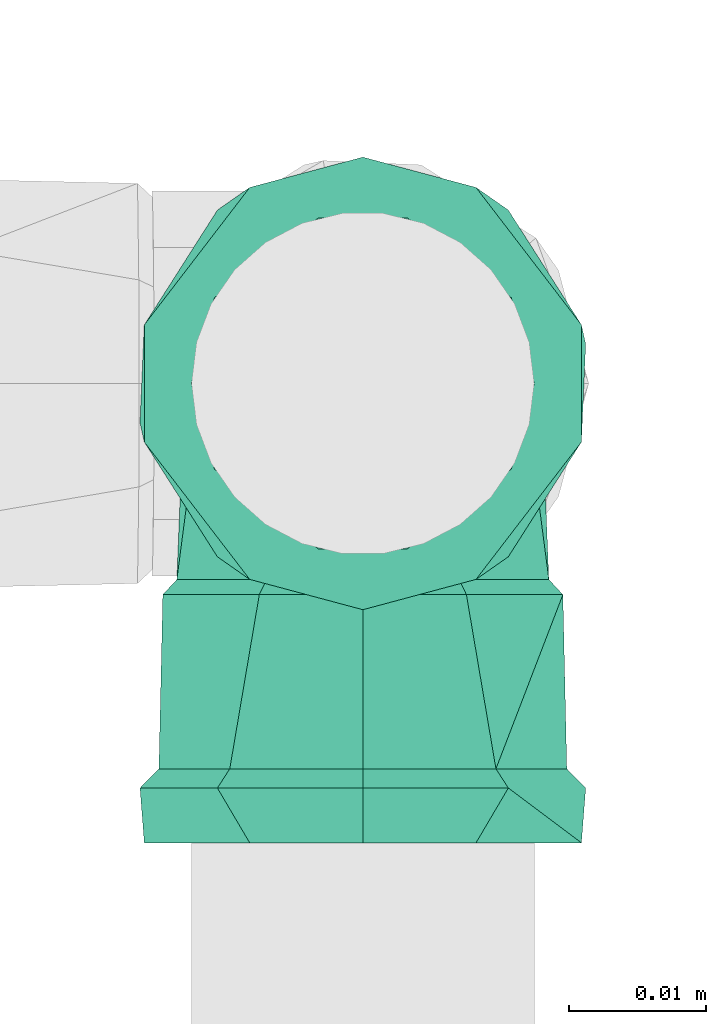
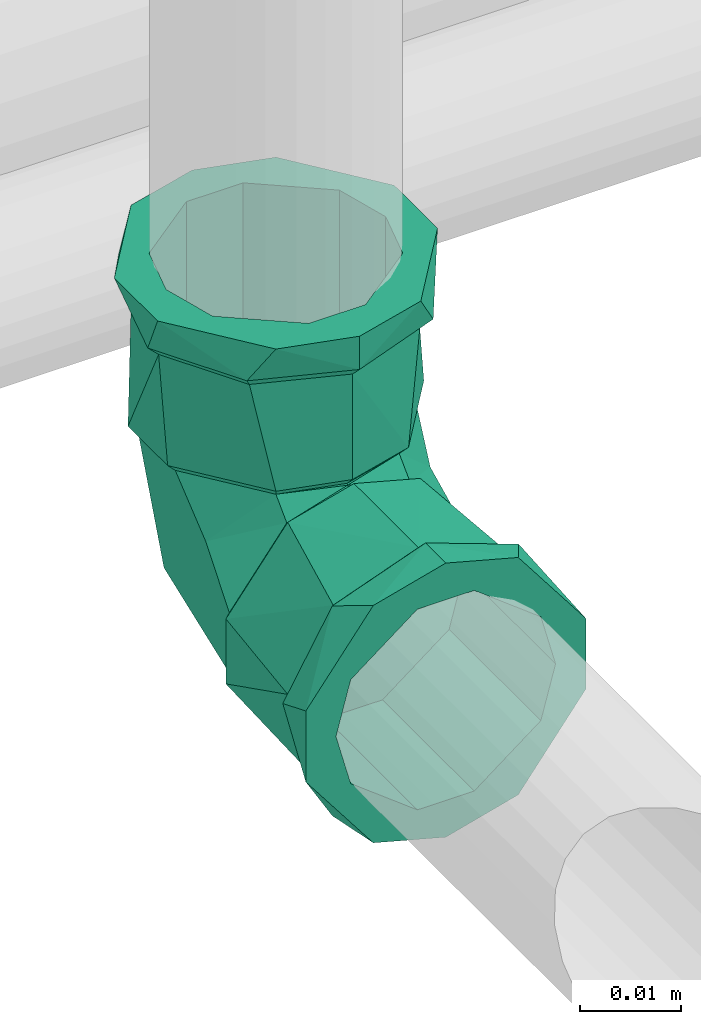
# One storey, part 311 of 589: 1 flow fitting.
"""IFC2X3 building model written with IfcOpenShell, lengths in millimetres."""

from ifc_helpers import new_model, entity, si_unit, converted_unit, derived_unit, direction, frame, origin, place, context, subcontext, project, spatial, faceted_brep, source, transform, mapped, material, type_object, type_shapes, element, save


model = new_model("IFC2X3")

# Units and contexts
model_context = context("Model", 3, precision=0.01, world=origin(), true_north=direction((6.123031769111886e-17, 1.0)))
body_context = subcontext(model_context, "Body", "Model", "MODEL_VIEW")
ifc_project = project(units=[si_unit("LENGTHUNIT", "METRE", prefix="MILLI"), si_unit("AREAUNIT", "SQUARE_METRE"), si_unit("VOLUMEUNIT", "CUBIC_METRE"), converted_unit("PLANEANGLEUNIT", "DEGREE", entity("IfcRatioMeasure", 0.017453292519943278), si_unit("PLANEANGLEUNIT", "RADIAN"), dimensions=[0, 0, 0, 0, 0, 0, 0]), si_unit("MASSUNIT", "GRAM", prefix="KILO"), derived_unit("MASSDENSITYUNIT", [(si_unit("MASSUNIT", "GRAM", prefix="KILO"), 1), (si_unit("LENGTHUNIT", "METRE"), -3)]), derived_unit("IONCONCENTRATIONUNIT", [(si_unit("MASSUNIT", "GRAM", prefix="KILO"), 1), (si_unit("LENGTHUNIT", "METRE"), -3)]), derived_unit("MOMENTOFINERTIAUNIT", [(si_unit("LENGTHUNIT", "METRE"), 4)]), si_unit("TIMEUNIT", "SECOND"), si_unit("FREQUENCYUNIT", "HERTZ"), si_unit("THERMODYNAMICTEMPERATUREUNIT", "DEGREE_CELSIUS"), derived_unit("THERMALTRANSMITTANCEUNIT", [(si_unit("MASSUNIT", "GRAM", prefix="KILO"), 1), (si_unit("THERMODYNAMICTEMPERATUREUNIT", "KELVIN"), -1), (si_unit("TIMEUNIT", "SECOND"), -3)]), derived_unit("THERMALCONDUCTANCEUNIT", [(si_unit("MASSUNIT", "GRAM", prefix="KILO"), 1), (si_unit("THERMODYNAMICTEMPERATUREUNIT", "KELVIN"), -1), (si_unit("TIMEUNIT", "SECOND"), -3), (si_unit("LENGTHUNIT", "METRE"), 1)]), derived_unit("VOLUMETRICFLOWRATEUNIT", [(si_unit("LENGTHUNIT", "METRE"), 3), (si_unit("TIMEUNIT", "SECOND"), -1)]), derived_unit("MASSFLOWRATEUNIT", [(si_unit("MASSUNIT", "GRAM", prefix="KILO"), 1), (si_unit("TIMEUNIT", "SECOND"), -1)]), derived_unit("ROTATIONALFREQUENCYUNIT", [(si_unit("TIMEUNIT", "SECOND"), -1)]), si_unit("ELECTRICCURRENTUNIT", "AMPERE"), si_unit("ELECTRICVOLTAGEUNIT", "VOLT"), si_unit("POWERUNIT", "WATT"), si_unit("FORCEUNIT", "NEWTON", prefix="KILO"), si_unit("ILLUMINANCEUNIT", "LUX"), si_unit("LUMINOUSFLUXUNIT", "LUMEN"), si_unit("LUMINOUSINTENSITYUNIT", "CANDELA"), derived_unit("USERDEFINED", [(si_unit("MASSUNIT", "GRAM", prefix="KILO"), -1), (si_unit("LENGTHUNIT", "METRE"), -2), (si_unit("TIMEUNIT", "SECOND"), 3), (si_unit("LUMINOUSFLUXUNIT", "LUMEN"), 1)]), derived_unit("USERDEFINED", [(si_unit("MASSUNIT", "GRAM", prefix="KILO"), 1), (si_unit("TIMEUNIT", "SECOND"), -3), (si_unit("LENGTHUNIT", "METRE"), 3), (si_unit("ELECTRICCURRENTUNIT", "AMPERE"), -2)]), derived_unit("SOUNDPOWERUNIT", [(si_unit("MASSUNIT", "GRAM", prefix="KILO"), 1), (si_unit("TIMEUNIT", "SECOND"), -3), (si_unit("LENGTHUNIT", "METRE"), 2)]), derived_unit("SOUNDPRESSUREUNIT", [(si_unit("MASSUNIT", "GRAM", prefix="KILO"), 1), (si_unit("LENGTHUNIT", "METRE"), -1), (si_unit("TIMEUNIT", "SECOND"), -2)]), derived_unit("LINEARVELOCITYUNIT", [(si_unit("LENGTHUNIT", "METRE"), 1), (si_unit("TIMEUNIT", "SECOND"), -1)]), si_unit("PRESSUREUNIT", "PASCAL"), derived_unit("USERDEFINED", [(si_unit("MASSUNIT", "GRAM", prefix="KILO"), 1), (si_unit("LENGTHUNIT", "METRE"), -2), (si_unit("TIMEUNIT", "SECOND"), -2)]), derived_unit("LINEARFORCEUNIT", [(si_unit("MASSUNIT", "GRAM", prefix="KILO"), 1), (si_unit("TIMEUNIT", "SECOND"), -2)]), derived_unit("PLANARFORCEUNIT", [(si_unit("MASSUNIT", "GRAM", prefix="KILO"), 1), (si_unit("LENGTHUNIT", "METRE"), -1), (si_unit("TIMEUNIT", "SECOND"), -2)]), derived_unit("SPECIFICHEATCAPACITYUNIT", [(si_unit("THERMODYNAMICTEMPERATUREUNIT", "KELVIN"), -1), (si_unit("LENGTHUNIT", "METRE"), 2), (si_unit("TIMEUNIT", "SECOND"), -2)]), derived_unit("HEATINGVALUEUNIT", [(si_unit("LENGTHUNIT", "METRE"), 2), (si_unit("TIMEUNIT", "SECOND"), -2)]), derived_unit("VAPORPERMEABILITYUNIT", [(si_unit("LENGTHUNIT", "METRE"), -1), (si_unit("TIMEUNIT", "SECOND"), 1)]), derived_unit("DYNAMICVISCOSITYUNIT", [(si_unit("MASSUNIT", "GRAM", prefix="KILO"), 1), (si_unit("TIMEUNIT", "SECOND"), -1), (si_unit("LENGTHUNIT", "METRE"), -1)]), derived_unit("THERMALEXPANSIONCOEFFICIENTUNIT", [(si_unit("THERMODYNAMICTEMPERATUREUNIT", "KELVIN"), -1)]), derived_unit("MODULUSOFELASTICITYUNIT", [(si_unit("MASSUNIT", "GRAM", prefix="KILO"), 1), (si_unit("LENGTHUNIT", "METRE"), -1), (si_unit("TIMEUNIT", "SECOND"), -2)]), derived_unit("ISOTHERMALMOISTURECAPACITYUNIT", [(si_unit("LENGTHUNIT", "METRE"), 3), (si_unit("MASSUNIT", "GRAM", prefix="KILO"), -1)]), derived_unit("MOISTUREDIFFUSIVITYUNIT", [(si_unit("TIMEUNIT", "SECOND"), -1), (si_unit("LENGTHUNIT", "METRE"), 2)])], contexts=[model_context])

# Site, building, storey
site_placement = place(None, origin())
site = spatial("IfcSite", under=ifc_project, at=site_placement, Name="Default", CompositionType="ELEMENT")
building_placement = place(site_placement, origin())
building = spatial("IfcBuilding", under=site, at=building_placement, CompositionType="ELEMENT")
storey_placement = place(building_placement, frame((0.0, 0.0, 100.0)))
storey = spatial("IfcBuildingStorey", under=building, at=storey_placement, Name="TÉRREO", CompositionType="ELEMENT", Elevation=100.0)

# Flow fitting
ifc_material = material(Name="PVC Marrom")
pipe_fitting_type = type_object("IfcPipeFittingType", Name="PVC Marrom Soldável_Joelho 45°_90°_Rodrigo MEP:Joelho", PredefinedType="NOTDEFINED", material=ifc_material)
shared_shape = source(origin(), body_context, "Body", "Brep", [
    faceted_brep([(3.908167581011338, 15.40000000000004, 14.585479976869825), (13.076983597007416, 15.40000000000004, 7.549999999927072), (15.099999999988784, 15.40000000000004, 0.0), (13.076983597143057, 15.40000000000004, -7.55000000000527), (3.9081675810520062, 15.40000000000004, -14.585479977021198), (-3.9081675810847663, 15.40000000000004, -14.585479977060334), (-13.076983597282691, 15.40000000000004, -7.550000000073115), (-15.100000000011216, 15.40000000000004, 0.0), (-13.076983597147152, 15.40000000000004, 7.549999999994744), (-3.908167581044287, 15.40000000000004, 14.585479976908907), (-3.633819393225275, 14.30000000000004, 13.561598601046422), (-12.158996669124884, 14.30000000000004, 7.0199999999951), (-14.040000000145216, 14.30000000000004, 0.0), (-12.158996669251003, 14.30000000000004, -7.020000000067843), (-3.6338193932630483, 14.30000000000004, -13.561598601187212), (3.6338193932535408, 14.30000000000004, -13.561598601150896), (12.158996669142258, 14.30000000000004, -7.020000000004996), (14.039999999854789, 14.30000000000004, 0.0), (12.158996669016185, 14.30000000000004, 7.0199999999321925), (3.6338193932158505, 14.30000000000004, 13.561598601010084)], [[[0, 1, 2, 3, 4, 5, 6, 7, 8, 9]], [[10, 11, 12, 13, 14, 15, 16, 17, 18, 19]], [[3, 17, 16]], [[4, 3, 16, 15]], [[3, 2, 17]], [[15, 14, 5, 4]], [[6, 5, 14, 13]], [[7, 13, 12]], [[7, 6, 13]], [[8, 12, 11]], [[9, 8, 11, 10]], [[8, 7, 12]], [[10, 19, 0, 9]], [[1, 0, 19, 18]], [[2, 18, 17]], [[2, 1, 18]]]),
    faceted_brep([(-15.399999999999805, 3.908167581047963, 14.585479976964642), (-15.399999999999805, 13.076983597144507, 7.549999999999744), (-15.399999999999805, 15.100000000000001, 0.0), (-15.399999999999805, 13.076983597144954, -7.54999999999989), (-15.399999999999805, 3.9081675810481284, -14.58547997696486), (-15.399999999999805, -3.9081675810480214, -14.585479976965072), (-15.399999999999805, -13.0769835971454, -7.550000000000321), (-15.399999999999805, -15.099999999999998, 0.0), (-15.399999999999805, -13.076983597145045, 7.550000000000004), (-15.399999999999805, -3.908167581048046, 14.585479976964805), (-14.299999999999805, 12.158996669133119, 7.019999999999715), (-14.299999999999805, 3.6338193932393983, 13.561598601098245), (-14.299999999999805, -3.633819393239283, 13.56159860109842), (-14.299999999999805, -12.15899666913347, 7.020000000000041), (-14.299999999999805, -14.040000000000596, 0.0), (-14.299999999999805, -12.158996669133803, -7.020000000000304), (-14.299999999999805, -3.63381939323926, -13.561598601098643), (-14.299999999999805, 3.6338193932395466, -13.56159860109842), (-14.299999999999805, 12.158996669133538, -7.019999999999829), (-14.299999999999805, 14.03999999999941, 0.0)], [[[0, 1, 2, 3, 4, 5, 6, 7, 8, 9]], [[10, 11, 12, 13, 14, 15, 16, 17, 18, 19]], [[3, 2, 19, 18]], [[4, 3, 18, 17]], [[17, 16, 5, 4]], [[6, 5, 16, 15]], [[7, 6, 15, 14]], [[8, 7, 14, 13]], [[9, 8, 13, 12]], [[12, 11, 0, 9]], [[1, 0, 11, 10]], [[2, 1, 10, 19]]]),
    faceted_brep([(-33.4999999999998, -4.2705142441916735, -15.937776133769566), (-33.4999999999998, -6.250000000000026, -10.825317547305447), (-33.4999999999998, 0.0, -12.5), (-33.4999999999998, -14.289419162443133, -8.25000000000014), (-33.4999999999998, 4.270514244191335, -15.937776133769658), (-33.4999999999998, -12.074072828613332, -3.23523806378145), (-33.4999999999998, -16.499999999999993, 0.0), (-33.4999999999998, -12.074072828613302, 3.2352380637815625), (-33.4999999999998, -14.289419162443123, 8.249999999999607), (-33.4999999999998, -6.249999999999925, 10.825317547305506), (-33.4999999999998, -4.27051424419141, 15.937776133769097), (-33.4999999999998, 0.0, 12.5), (-33.4999999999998, 4.270514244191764, 15.937776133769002), (-33.4999999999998, 6.249999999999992, 10.825317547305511), (-33.4999999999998, 14.28941916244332, 8.249999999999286), (-33.4999999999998, 12.074072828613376, 3.2352380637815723), (-33.4999999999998, 16.500000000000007, 0.0), (-33.4999999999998, 12.074072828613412, -3.235238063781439), (-33.4999999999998, 14.289419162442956, -8.250000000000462), (-33.4999999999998, 6.250000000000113, -10.82531754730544), (-29.499999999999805, 16.5, 0.0), (-29.500000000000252, 12.639142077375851, 10.606700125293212), (-29.50000000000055, 2.8633833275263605, 16.249647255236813), (-29.50000000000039, -12.64180232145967, 10.603529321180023), (-29.499999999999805, -16.499999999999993, 0.0), (-29.500000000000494, -4.889209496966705, 13.426588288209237), (-29.49999999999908, -12.641802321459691, -10.603529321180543), (-29.49999999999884, -2.8674593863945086, -16.24892847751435), (-29.499999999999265, 12.639142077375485, -10.606700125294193), (-29.499999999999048, 4.885841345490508, -13.427814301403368), (-28.099999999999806, -15.099999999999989, 0.0), (-28.10000000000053, -11.56916454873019, 9.703835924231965), (-28.100000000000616, -4.474367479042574, 12.287362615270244), (-28.1000000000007, 2.6204295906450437, 14.870889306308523), (-28.100000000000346, 11.566730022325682, 9.706737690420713), (-28.09999999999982, 15.099999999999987, 0.0), (-28.099999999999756, 11.566730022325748, -9.706737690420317), (-28.09999999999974, 4.4712851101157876, -12.28848460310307), (-28.09999999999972, -2.6241598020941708, -14.870231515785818), (-28.09999999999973, -11.569164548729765, -9.703835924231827), (-15.399999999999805, 0.0, -12.5), (-15.399999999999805, -6.250000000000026, -10.825317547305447), (-15.399999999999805, -3.908167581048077, -14.585479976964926), (-15.399999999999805, 3.9081675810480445, -14.585479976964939), (-15.399999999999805, 6.250000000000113, -10.82531754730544), (-15.399999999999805, -13.076983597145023, -7.549999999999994), (-15.399999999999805, -12.074072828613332, -3.23523806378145), (-15.399999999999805, -15.099999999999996, 0.0), (-15.399999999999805, -12.074072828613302, 3.2352380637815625), (-15.399999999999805, -13.076983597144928, 7.550000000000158), (-15.399999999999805, -6.249999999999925, 10.825317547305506), (-15.399999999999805, -3.9081675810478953, 14.585479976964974), (-15.399999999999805, 0.0, 12.5), (-15.399999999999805, 3.9081675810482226, 14.58547997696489), (-15.399999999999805, 6.249999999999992, 10.825317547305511), (-15.399999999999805, 13.076983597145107, 7.549999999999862), (-15.399999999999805, 12.074072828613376, 3.2352380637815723), (-15.399999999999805, 15.100000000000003, 0.0), (-15.399999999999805, 12.074072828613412, -3.235238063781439), (-15.399999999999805, 13.076983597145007, -7.550000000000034)], [[[0, 1, 2]], [[1, 0, 3]], [[2, 4, 0]], [[3, 5, 1]], [[3, 6, 5]], [[5, 6, 7]], [[8, 7, 6]], [[7, 8, 9]], [[10, 9, 8]], [[9, 10, 11]], [[11, 10, 12]], [[12, 13, 11]], [[14, 13, 12]], [[13, 14, 15]], [[16, 15, 14]], [[16, 17, 15]], [[18, 17, 16]], [[19, 17, 18]], [[19, 18, 4]], [[4, 2, 19]], [[16, 14, 20]], [[14, 21, 20]], [[21, 14, 12]], [[21, 12, 22]], [[23, 10, 8]], [[24, 8, 6]], [[10, 23, 25, 22]], [[23, 8, 24]], [[10, 22, 12]], [[6, 3, 24]], [[3, 26, 24]], [[26, 3, 0]], [[26, 0, 27]], [[28, 4, 18]], [[20, 18, 16]], [[4, 28, 29, 27]], [[28, 18, 20]], [[4, 27, 0]], [[30, 31, 23, 24]], [[31, 32, 33, 22, 25, 23]], [[34, 35, 20, 21]], [[34, 21, 22, 33]], [[35, 36, 28, 20]], [[36, 37, 38, 27, 29, 28]], [[39, 30, 24, 26]], [[39, 26, 27, 38]], [[40, 41, 42]], [[42, 43, 40]], [[44, 40, 43]], [[45, 42, 41]], [[41, 46, 45]], [[46, 47, 45]], [[48, 47, 46]], [[47, 48, 49]], [[50, 49, 48]], [[49, 50, 51]], [[52, 51, 50]], [[53, 51, 52]], [[52, 54, 53]], [[53, 54, 55]], [[56, 55, 54]], [[55, 56, 57]], [[56, 58, 57]], [[59, 58, 44]], [[57, 58, 59]], [[43, 59, 44]], [[35, 34, 55]], [[35, 55, 57]], [[55, 34, 53]], [[34, 33, 53]], [[51, 33, 32, 31]], [[49, 31, 30]], [[31, 49, 51]], [[49, 30, 47]], [[33, 51, 53]], [[30, 39, 45]], [[30, 45, 47]], [[45, 39, 42]], [[39, 38, 42]], [[43, 38, 37, 36]], [[59, 36, 35]], [[36, 59, 43]], [[59, 35, 57]], [[38, 43, 42]], [[9, 11, 52, 50]], [[7, 9, 50, 48]], [[48, 46, 5, 7]], [[1, 5, 46, 41]], [[2, 1, 41, 40]], [[19, 2, 40, 44]], [[17, 19, 44, 58]], [[58, 56, 15, 17]], [[13, 15, 56, 54]], [[11, 13, 54, 52]]]),
    faceted_brep([(-14.299999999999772, -3.6338193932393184, -13.561598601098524), (-14.299999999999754, -12.158996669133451, -7.020000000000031), (-14.29999999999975, -14.039999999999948, 0.0), (-14.299999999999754, -12.158996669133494, 7.019999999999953), (-14.299999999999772, -3.6338193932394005, 13.561598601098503), (-14.299999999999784, 3.633819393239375, 13.561598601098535), (-14.299999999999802, 12.158996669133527, 7.0200000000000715), (-14.299999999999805, 14.04000000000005, 0.0), (-14.299999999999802, 12.158996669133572, -7.019999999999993), (-14.299999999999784, 3.63381939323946, -13.561598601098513), (3.633819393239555, 14.29999999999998, -13.561598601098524), (-3.633819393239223, 14.300000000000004, -13.561598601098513), (-12.158996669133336, 14.300000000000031, -7.019999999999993), (-14.039999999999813, 14.300000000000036, 0.0), (-12.158996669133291, 14.300000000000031, 7.0200000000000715), (-3.6338193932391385, 14.300000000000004, 13.561598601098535), (3.6338193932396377, 14.29999999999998, 13.561598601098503), (12.158996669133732, 14.299999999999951, 7.019999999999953), (14.040000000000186, 14.299999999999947, 0.0), (12.158996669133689, 14.299999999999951, -7.020000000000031), (-0.45476175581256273, 0.4547603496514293, 13.009299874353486), (-4.991226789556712, -9.102895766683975, 8.866254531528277), (-2.689013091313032, -7.336393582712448, 0.0), (3.7770734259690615, -3.6031967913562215, 0.0), (9.09033094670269, 4.905775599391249, 8.841582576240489), (10.243159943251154, 0.13000000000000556, 0.0), (-14.116152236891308, 14.116152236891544, 0.0), (-8.296884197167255, 8.29688403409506, 12.78130953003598), (-0.454761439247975, 0.45476027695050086, -13.009299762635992), (-8.296884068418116, 8.296883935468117, -12.78130960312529), (9.090330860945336, 4.90577564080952, -8.84158269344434), (-4.991226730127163, -9.10289574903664, -8.866254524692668)], [[[0, 1, 2, 3, 4, 5, 6, 7, 8, 9]], [[10, 11, 12, 13, 14, 15, 16, 17, 18, 19]], [[4, 20, 5]], [[21, 3, 22]], [[20, 4, 21]], [[21, 22, 23]], [[17, 24, 25]], [[26, 6, 14]], [[23, 20, 21]], [[26, 7, 6]], [[6, 5, 27]], [[3, 2, 22]], [[20, 23, 24]], [[25, 18, 17]], [[20, 27, 5]], [[16, 20, 24]], [[17, 16, 24]], [[6, 27, 14]], [[26, 14, 13]], [[21, 4, 3]], [[27, 15, 14]], [[27, 20, 15]], [[23, 25, 24]], [[15, 20, 16]], [[8, 7, 26]], [[28, 29, 11]], [[28, 10, 30]], [[8, 12, 29]], [[31, 22, 1]], [[31, 23, 22]], [[28, 9, 29]], [[19, 30, 10]], [[0, 28, 31]], [[1, 22, 2]], [[8, 26, 12]], [[12, 11, 29]], [[8, 29, 9]], [[31, 1, 0]], [[10, 28, 11]], [[30, 19, 25]], [[0, 9, 28]], [[19, 18, 25]], [[25, 23, 30]], [[23, 31, 28]], [[30, 23, 28]], [[12, 26, 13]]]),
    faceted_brep([(0.0, 15.40000000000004, -12.5), (-6.249999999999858, 15.40000000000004, -10.825317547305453), (-3.908167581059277, 15.40000000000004, -14.585479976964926), (3.9081675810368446, 15.40000000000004, -14.585479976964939), (6.250000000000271, 15.40000000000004, -10.82531754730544), (-13.076983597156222, 15.40000000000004, -7.549999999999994), (-12.07407282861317, 15.40000000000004, -3.235238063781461), (-15.100000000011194, 15.40000000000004, 0.0), (-12.074072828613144, 15.40000000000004, 3.2352380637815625), (-13.076983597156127, 15.40000000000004, 7.550000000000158), (-6.249999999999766, 15.40000000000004, 10.825317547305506), (-3.9081675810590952, 15.40000000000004, 14.585479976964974), (0.0, 15.40000000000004, 12.5), (3.9081675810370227, 15.40000000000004, 14.58547997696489), (6.250000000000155, 15.40000000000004, 10.825317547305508), (13.076983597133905, 15.40000000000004, 7.549999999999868), (12.074072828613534, 15.40000000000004, 3.2352380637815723), (15.099999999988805, 15.40000000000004, 0.0), (12.07407282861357, 15.40000000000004, -3.235238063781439), (13.07698359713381, 15.40000000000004, -7.550000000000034), (15.099999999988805, 28.10000000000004, 0.0), (11.56673002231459, 28.100000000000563, 9.706737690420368), (4.471285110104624, 28.10000000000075, 12.288484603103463), (-2.624159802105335, 28.100000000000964, 14.870231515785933), (-11.569164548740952, 28.10000000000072, 9.703835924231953), (-15.100000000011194, 28.10000000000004, 0.0), (-11.569164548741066, 28.10000000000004, -9.703835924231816), (-4.474367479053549, 28.10000000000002, -12.287362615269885), (2.6204295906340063, 28.099999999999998, -14.870889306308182), (11.566730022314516, 28.10000000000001, -9.706737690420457), (-12.639142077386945, 29.50000000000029, 10.606700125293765), (-16.50000000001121, 29.500000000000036, 0.0), (-2.8633833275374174, 29.50000000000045, 16.249647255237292), (12.641802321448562, 29.500000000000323, 10.603529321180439), (4.889209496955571, 29.500000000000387, 13.426588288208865), (16.499999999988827, 29.50000000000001, 0.0), (12.64180232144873, 29.500000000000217, -10.603529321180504), (2.867459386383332, 29.500000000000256, -16.24892847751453), (-12.639142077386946, 29.500000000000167, -10.606700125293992), (-4.885841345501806, 29.500000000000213, -13.427814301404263), (-4.270514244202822, 33.50000000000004, -15.937776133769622), (-6.249999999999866, 33.50000000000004, -10.825317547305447), (0.0, 33.50000000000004, -12.5), (-14.289419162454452, 33.50000000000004, -8.249999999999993), (4.270514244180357, 33.50000000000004, -15.937776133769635), (-12.074072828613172, 33.50000000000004, -3.23523806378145), (-16.50000000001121, 33.50000000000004, 0.0), (-12.074072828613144, 33.50000000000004, 3.2352380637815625), (-14.28941916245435, 33.50000000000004, 8.250000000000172), (-6.2499999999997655, 33.50000000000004, 10.825317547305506), (-4.270514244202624, 33.50000000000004, 15.937776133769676), (0.0, 33.50000000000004, 12.5), (4.270514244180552, 33.50000000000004, 15.937776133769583), (6.250000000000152, 33.50000000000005, 10.825317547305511), (14.289419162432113, 33.50000000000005, 8.249999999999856), (12.074072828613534, 33.50000000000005, 3.2352380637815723), (16.49999999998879, 33.50000000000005, 0.0), (12.07407282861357, 33.50000000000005, -3.235238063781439), (14.289419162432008, 33.50000000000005, -8.250000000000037), (6.250000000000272, 33.50000000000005, -10.82531754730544)], [[[0, 1, 2]], [[2, 3, 0]], [[4, 0, 3]], [[5, 2, 1]], [[1, 6, 5]], [[6, 7, 5]], [[8, 7, 6]], [[7, 8, 9]], [[10, 9, 8]], [[9, 10, 11]], [[12, 11, 10]], [[13, 11, 12]], [[12, 14, 13]], [[13, 14, 15]], [[16, 15, 14]], [[15, 16, 17]], [[16, 18, 17]], [[19, 18, 4]], [[17, 18, 19]], [[3, 19, 4]], [[20, 21, 15]], [[20, 15, 17]], [[15, 21, 13]], [[13, 21, 22, 23]], [[11, 23, 24]], [[9, 24, 25]], [[24, 9, 11]], [[9, 25, 7]], [[23, 11, 13]], [[25, 26, 5]], [[25, 5, 7]], [[5, 26, 2]], [[2, 26, 27, 28]], [[3, 28, 29]], [[19, 29, 20]], [[29, 19, 3]], [[19, 20, 17]], [[28, 3, 2]], [[24, 23, 30]], [[25, 24, 31]], [[31, 24, 30]], [[23, 32, 30]], [[21, 20, 33]], [[21, 33, 34]], [[22, 32, 23]], [[35, 33, 20]], [[32, 22, 34]], [[22, 21, 34]], [[20, 29, 36]], [[36, 35, 20]], [[37, 36, 29]], [[38, 39, 27]], [[29, 28, 37]], [[26, 25, 31]], [[38, 27, 26]], [[38, 26, 31]], [[28, 39, 37]], [[39, 28, 27]], [[40, 41, 42]], [[41, 40, 43]], [[42, 44, 40]], [[43, 45, 41]], [[43, 46, 45]], [[45, 46, 47]], [[48, 47, 46]], [[47, 48, 49]], [[50, 49, 48]], [[49, 50, 51]], [[51, 50, 52]], [[52, 53, 51]], [[54, 53, 52]], [[53, 54, 55]], [[56, 55, 54]], [[56, 57, 55]], [[58, 57, 56]], [[59, 57, 58]], [[59, 58, 44]], [[44, 42, 59]], [[56, 54, 35]], [[54, 33, 35]], [[33, 54, 52]], [[52, 32, 34, 33]], [[30, 50, 48]], [[31, 48, 46]], [[50, 30, 32]], [[30, 48, 31]], [[50, 32, 52]], [[46, 43, 31]], [[43, 38, 31]], [[38, 43, 40]], [[40, 37, 39, 38]], [[36, 44, 58]], [[35, 58, 56]], [[44, 36, 37]], [[36, 58, 35]], [[44, 37, 40]], [[49, 51, 12, 10]], [[47, 49, 10, 8]], [[8, 6, 45, 47]], [[41, 45, 6, 1]], [[42, 41, 1, 0]], [[59, 42, 0, 4]], [[57, 59, 4, 18]], [[18, 16, 55, 57]], [[53, 55, 16, 14]], [[51, 53, 14, 12]]]),
])
type_shapes(pipe_fitting_type, [shared_shape])
flow_fitting_placement = place(storey_placement, frame((-4815.0268878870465, -7887.861245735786, -37.354644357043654), z_axis=(-1.0, 0.0, -9.679762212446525e-06), x_axis=(9.679762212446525e-06, 0.0, -1.0)))
element("IfcFlowFitting", 1, at=flow_fitting_placement, inside=storey, type_object=pipe_fitting_type, material=ifc_material, Name="PVC Marrom Soldável_Joelho 45°_90°_Rodrigo MEP:Joelho", ObjectType="PVC Marrom Soldável_Joelho 45°_90°_Rodrigo MEP:Joelho", context=body_context, shape_type="MappedRepresentation", body=[
    mapped(shared_shape, transform((0.0, 0.0, 0.0), scale=1.0)),
])

save(model, "model.ifc")
